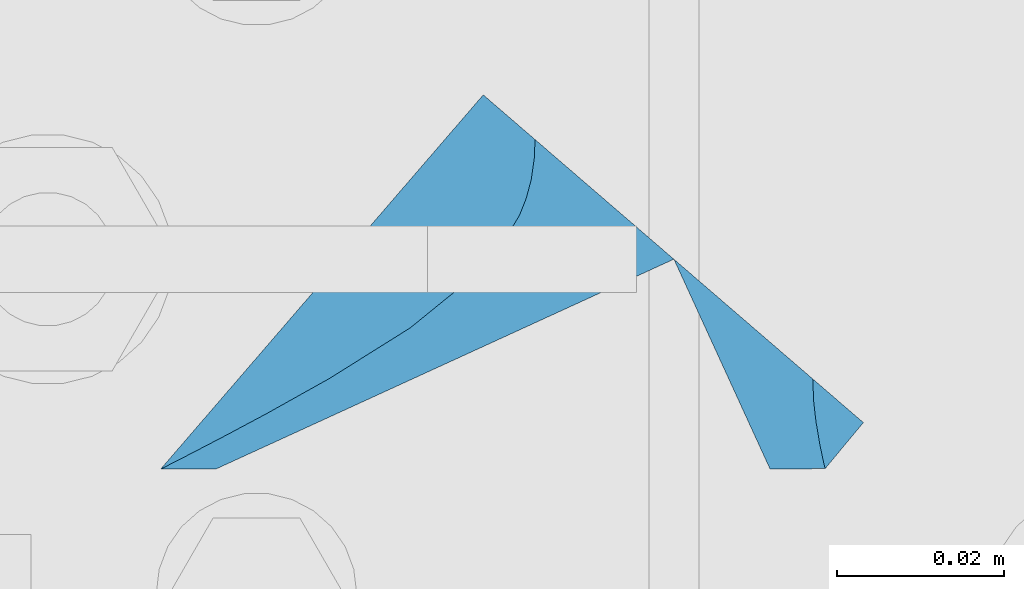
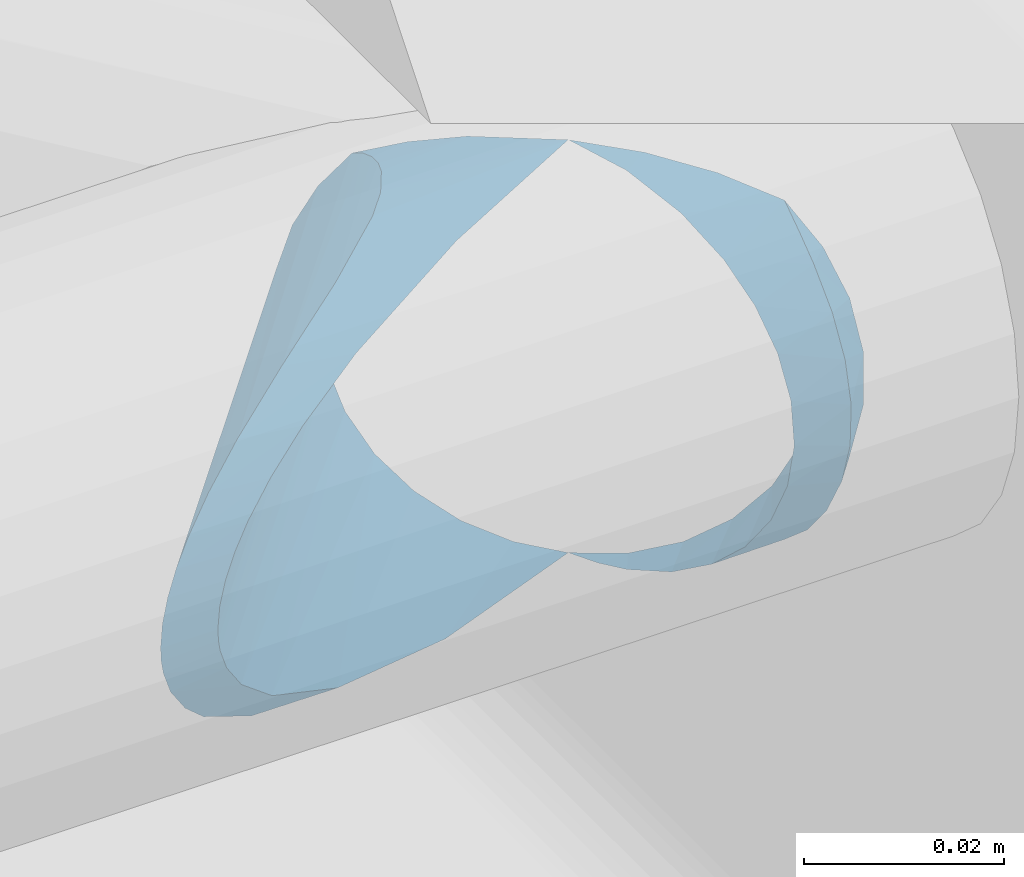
# One storey, part 6 of 22: 1 beam, 1 element without a shape of its own.
"""IFC2X3 building model written with IfcOpenShell, lengths in millimetres."""

from ifc_helpers import new_model, si_unit, frame, origin_with_axes, origin_2d_with_axis, place, context, subcontext, project, spatial, hollow_circle, extrude, boolean, halfspace, material, type_object, element, aggregate, save


model = new_model("IFC2X3")

# Units and contexts
model_context = context("Model", 3, precision=1e-05, world=origin_with_axes())
body_context = subcontext(model_context, "Body", "Model", "MODEL_VIEW")
ifc_project = project(units=[si_unit("LENGTHUNIT", "METRE", prefix="MILLI"), si_unit("AREAUNIT", "SQUARE_METRE"), si_unit("VOLUMEUNIT", "CUBIC_METRE"), si_unit("MASSUNIT", "GRAM", prefix="KILO"), si_unit("TIMEUNIT", "SECOND"), si_unit("PLANEANGLEUNIT", "RADIAN"), si_unit("SOLIDANGLEUNIT", "STERADIAN"), si_unit("THERMODYNAMICTEMPERATUREUNIT", "DEGREE_CELSIUS"), si_unit("LUMINOUSINTENSITYUNIT", "LUMEN")], contexts=[model_context])

# Site, building, storey
site_placement = place(None, origin_with_axes())
site = spatial("IfcSite", under=ifc_project, at=site_placement, Name="Undefined", CompositionType="ELEMENT")
building_placement = place(site_placement, origin_with_axes())
building = spatial("IfcBuilding", under=site, at=building_placement, Name="Undefined", CompositionType="ELEMENT")
storey_placement = place(building_placement, origin_with_axes())
storey = spatial("IfcBuildingStorey", under=building, at=storey_placement, Name="Undefined", CompositionType="ELEMENT", Elevation=0.0)

# Assembly, beam
assembly_placement = place(storey_placement, origin_with_axes())
assembly = element("IfcElementAssembly", 1, at=assembly_placement, inside=storey, Name="Steel Assembly", AssemblyPlace="NOTDEFINED", PredefinedType="RIGID_FRAME")
ifc_material = material(Name="STEEL/S235JR")
beam_type = type_object("IfcBeamType", Name="CHS60.3*5", PredefinedType="NOTDEFINED")
beam_placement = place(assembly_placement, frame((15050.0, 100.0, 3230.0), z_axis=(0.0, 0.0, -1.0), x_axis=(0.652939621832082, 0.757409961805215, 0.0)))
beam = element("IfcBeam", 2, at=beam_placement, type_object=beam_type, material=ifc_material, Name="NOSNÍK", ObjectType="CHS60.3*5", context=body_context, shape_type="CSG", body=[
    boolean("DIFFERENCE", boolean("DIFFERENCE", boolean("DIFFERENCE", extrude(hollow_circle(Radius=30.15, WallThickness=5.0, at=origin_2d_with_axis()), frame((1531.53517752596, -1.81898940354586e-12, 0.0), z_axis=(-1.0, 0.0, 0.0), x_axis=(0.0, -1.0, 0.0)), (0.0, 0.0, 1.0), 1531.5), extrude(hollow_circle(Radius=30.15, WallThickness=5.0, at=origin_2d_with_axis()), frame((1554.06159447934, 26.1306441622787, 0.0), z_axis=(-0.652939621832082, -0.757409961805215, 0.0), x_axis=(0.757409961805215, -0.652939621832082, 0.0)), (0.0, 0.0, 1.0), 1034.5)), extrude(hollow_circle(Radius=30.15, WallThickness=5.0, at=origin_2d_with_axis()), frame((675.46603878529, 783.540605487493, 0.0), z_axis=(-0.652939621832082, -0.757409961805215, 0.0), x_axis=(0.757409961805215, -0.652939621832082, 0.0)), (0.0, 0.0, 1.0), 1032.1)), halfspace(frame((-31.3748924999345, 30.1499999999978, -30.1500000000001), z_axis=(-0.652939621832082, -0.757409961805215, 0.0), x_axis=(0.0, 0.0, 1.0)), False)),
])
aggregate(assembly, [beam])

save(model, "model.ifc")
